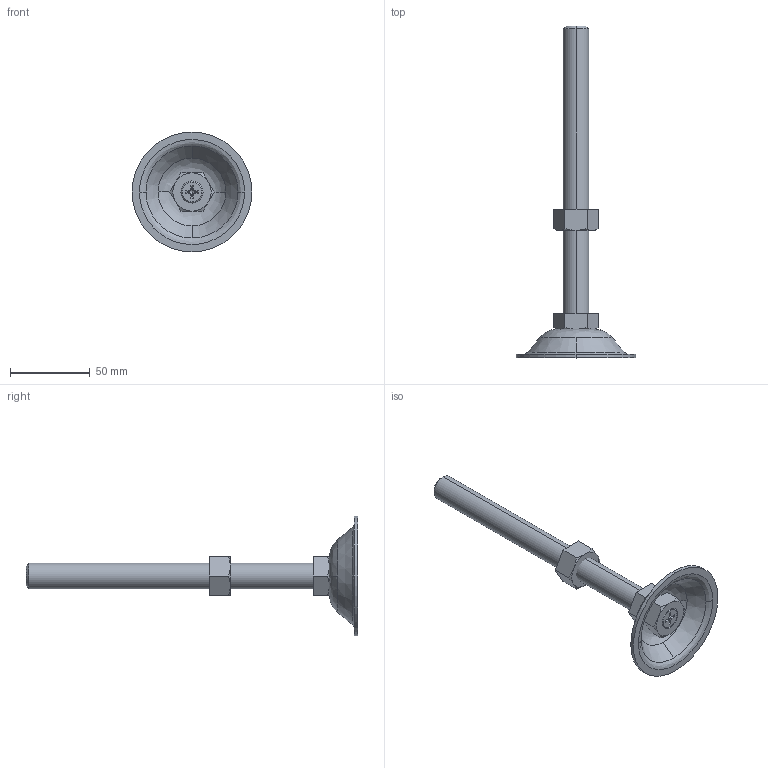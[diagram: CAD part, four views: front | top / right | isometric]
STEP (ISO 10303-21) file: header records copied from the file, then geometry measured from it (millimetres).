
FILE_DESCRIPTION (( 'STEP AP203' ), '1' );
FILE_NAME ('EA13-16180.STEP', '2013-09-20T05:36:24', ( 'SDS' ), ( 'SDS' ), 'SwSTEP 2.0', 'SolidWorks 2002296', '' );
FILE_SCHEMA (( 'CONFIG_CONTROL_DESIGN' ));
Length unit declared in the file: millimetre
Products named in the file (5): EA13-16180; EA13-161801_蹬怮椔; EA13-161802_蹬怮椔; EA13-161803_蹬怮椔; EA13-161804_蹬怮椔
Assembly tree (4 placements, depth 2):
  EA13-16180
    EA13-161804_蹬怮椔
    EA13-161801_蹬怮椔
    EA13-161802_蹬怮椔
    EA13-161803_蹬怮椔
Bounding box: 75 x 208 x 75 mm (x, y, z)
Volume: 63474.6 mm3; surface area: 26750.8 mm2
Topology: 4 solids, 4 shells, 123 faces, 281 edges, 169 vertices
Faces by surface type: plane 68, cone 34, cylinder 12, bspline 9
Entity records: 4342 total; most frequent: CARTESIAN_POINT 1208, ORIENTED_EDGE 558, DIRECTION 516, EDGE_CURVE 279, AXIS2_PLACEMENT_3D 197, VERTEX_POINT 169, EDGE_LOOP 134, FACE_OUTER_BOUND 123
